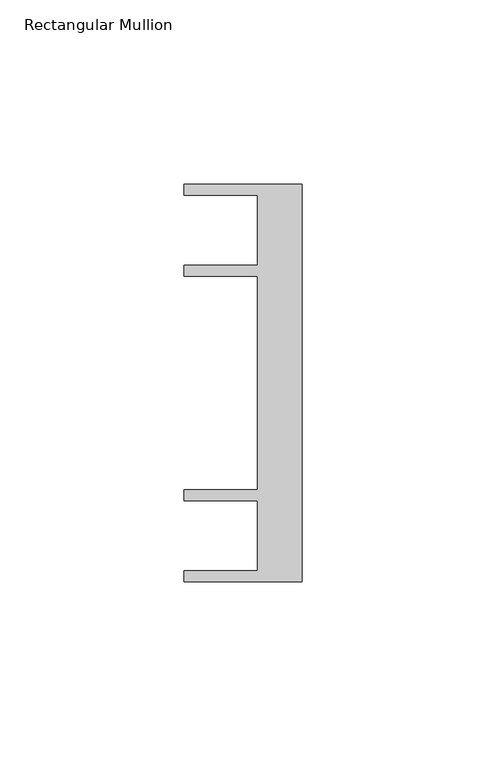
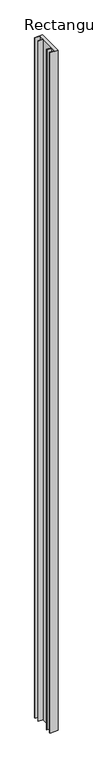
"""IFC4 building model written with IfcOpenShell, lengths in millimetres: member geometry, Rectangular Mullion : 22_IM_VNS_54_MAS_sp."""

from ifc_helpers import new_model, si_unit, frame, origin, place, context, project, spatial, polyline, outline, extrude, source, transform, mapped, element, save


def rectangular_mullion_e6aad3cd(model_context):
    return source(origin(), model_context, "Body", "SweptSolid", [
        extrude(outline(polyline([(-32.0, 54.0), (0.0, 54.0), (0.0, -54.0), (-32.0, -54.0), (-32.0, -51.0), (-12.0, -51.0), (-12.0, -32.0), (-32.0, -32.0), (-32.0, -29.0), (-12.0, -29.0), (-12.0, 29.0), (-32.0, 29.0), (-32.0, 32.0), (-12.0, 32.0), (-12.0, 51.0), (-32.0, 51.0), (-32.0, 54.0)])), frame((0.0, 0.0, -2902.0), z_axis=(0.0, 0.0, 1.0), x_axis=(1.0, 0.0, 0.0)), (0.0, 0.0, 1.0), 2902.0),
    ])


if __name__ == "__main__":
    model = new_model("IFC4")
    model_context = context("Model", 3, world=origin())
    ifc_project = project(units=[si_unit("LENGTHUNIT", "METRE", prefix="MILLI")], contexts=[model_context])
    site = spatial("IfcSite", under=ifc_project)
    building = spatial("IfcBuilding", under=site)
    placement = place(None, origin())
    rectangular_mullion_shape = rectangular_mullion_e6aad3cd(model_context)
    element("IfcMember", 1, ObjectType="Rectangular Mullion : 22_IM_VNS_54_MAS_sp", at=placement, inside=building, context=model_context, shape_type="MappedRepresentation", body=[
        mapped(rectangular_mullion_shape, transform((0.0, 0.0, 0.0), x_axis=(1.0, 0.0, 0.0), y_axis=(0.0, 1.0, 0.0), z_axis=(0.0, 0.0, 1.0))),
    ])
    save(model, "model.ifc")
